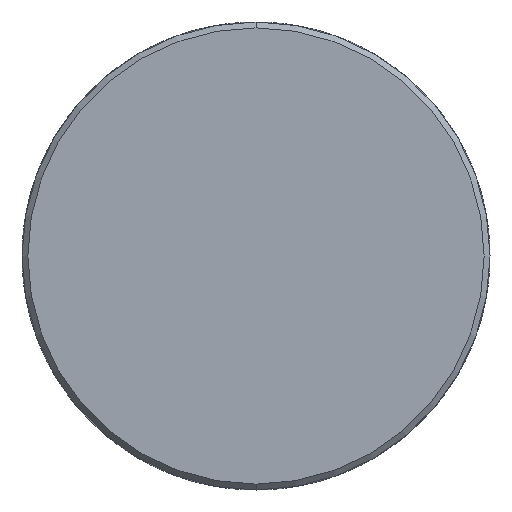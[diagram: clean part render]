
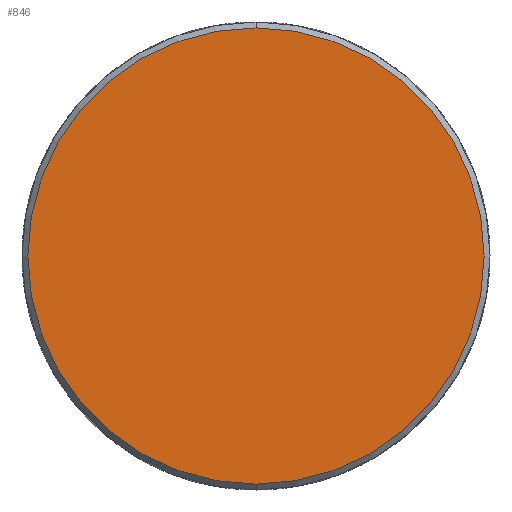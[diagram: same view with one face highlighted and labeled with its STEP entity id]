
A CAD part, front view. The second image highlights one B-rep face of the part: STEP entity #846.
In plain terms, the highlighted planar face has unit normal (0, -1, 0).
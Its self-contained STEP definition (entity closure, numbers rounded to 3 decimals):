
#387 = ORIENTED_EDGE ( 'NONE', *, *, #7122, .T. ) ;
#426 = DIRECTION ( 'NONE',  ( 0., 0., -1. ) ) ;
#818 = EDGE_CURVE ( 'NONE', #1184, #7002, #5347, .T. ) ;
#846 = ADVANCED_FACE ( 'NONE', ( #2857 ), #4795, .T. ) ;
#969 = CARTESIAN_POINT ( 'NONE',  ( 0., 0., 19.5 ) ) ;
#1150 = CARTESIAN_POINT ( 'NONE',  ( 0., 0., 0. ) ) ;
#1184 = VERTEX_POINT ( 'NONE', #4761 ) ;
#1264 = EDGE_LOOP ( 'NONE', ( #387, #2247 ) ) ;
#1474 = AXIS2_PLACEMENT_3D ( 'NONE', #4877, #1530, #6968 ) ;
#1530 = DIRECTION ( 'NONE',  ( 0., -1., 0. ) ) ;
#2138 = CARTESIAN_POINT ( 'NONE',  ( 0., 0., 0. ) ) ;
#2247 = ORIENTED_EDGE ( 'NONE', *, *, #818, .T. ) ;
#2772 = DIRECTION ( 'NONE',  ( 0., 0., -1. ) ) ;
#2857 = FACE_OUTER_BOUND ( 'NONE', #1264, .T. ) ;
#4215 = CIRCLE ( 'NONE', #5949, 19.5 ) ;
#4687 = DIRECTION ( 'NONE',  ( 0., -1., 0. ) ) ;
#4761 = CARTESIAN_POINT ( 'NONE',  ( 0., 0., -19.5 ) ) ;
#4795 = PLANE ( 'NONE',  #1474 ) ;
#4877 = CARTESIAN_POINT ( 'NONE',  ( 0., 0., 0. ) ) ;
#5347 = CIRCLE ( 'NONE', #7329, 19.5 ) ;
#5949 = AXIS2_PLACEMENT_3D ( 'NONE', #1150, #4687, #426 ) ;
#6225 = DIRECTION ( 'NONE',  ( 0., -1., 0. ) ) ;
#6968 = DIRECTION ( 'NONE',  ( 0., 0., -1. ) ) ;
#7002 = VERTEX_POINT ( 'NONE', #969 ) ;
#7122 = EDGE_CURVE ( 'NONE', #7002, #1184, #4215, .T. ) ;
#7329 = AXIS2_PLACEMENT_3D ( 'NONE', #2138, #6225, #2772 ) ;
